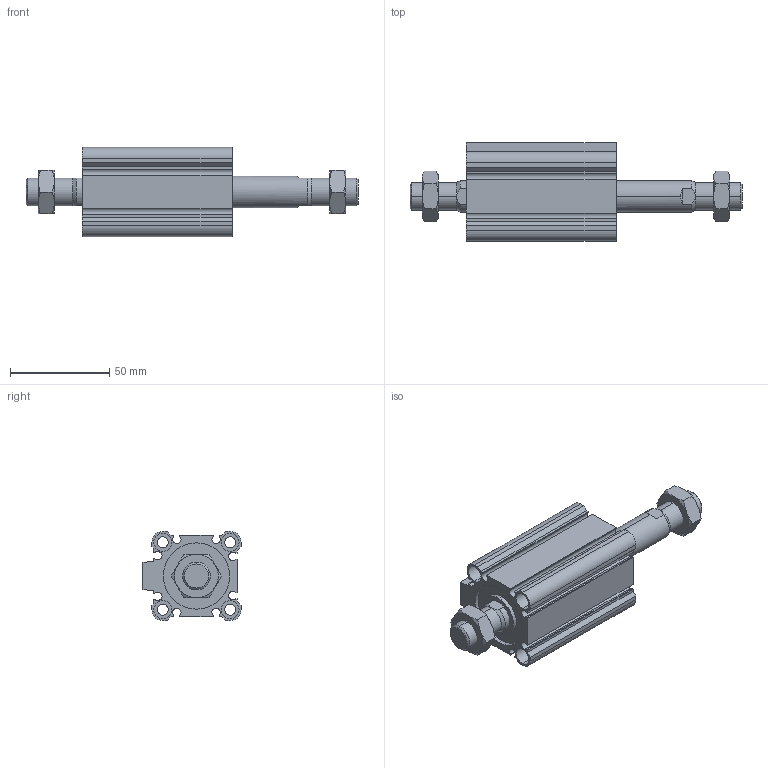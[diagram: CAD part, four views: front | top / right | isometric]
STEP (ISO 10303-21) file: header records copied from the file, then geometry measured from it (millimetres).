
FILE_DESCRIPTION (( 'STEP AP203' ), '1' );
FILE_NAME ('CCMB32-35M-P.STEP', '2020-08-10T11:34:19', ( '' ), ( '' ), 'SwSTEP 2.0', 'SolidWorks 2019', '' );
FILE_SCHEMA (( 'CONFIG_CONTROL_DESIGN' ));
Length unit declared in the file: millimetre
Products named in the file (1): CCMB32-35M-P
Bounding box: 167.5 x 49.5 x 45 mm (x, y, z)
Volume: 120692.8 mm3; surface area: 50185.3 mm2
Topology: 4 solids, 4 shells, 216 faces, 522 edges, 332 vertices
Faces by surface type: plane 94, cylinder 78, cone 44
Entity records: 7009 total; most frequent: CARTESIAN_POINT 1819, DIRECTION 1088, ORIENTED_EDGE 1044, EDGE_CURVE 522, AXIS2_PLACEMENT_3D 413, VERTEX_POINT 332, VECTOR 262, LINE 262
